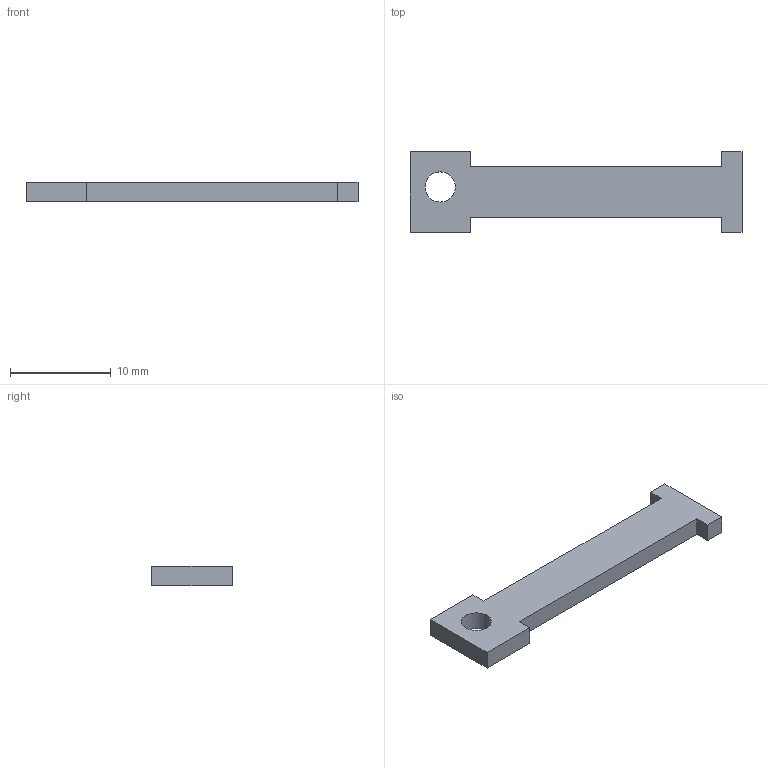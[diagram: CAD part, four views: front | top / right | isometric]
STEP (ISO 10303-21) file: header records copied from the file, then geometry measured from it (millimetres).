
FILE_DESCRIPTION(/* description */ ('STEP AP242 Edition 2','CAx-IF Rec.Pracs.---Representation and Presentation of Product Manufacturing Information (PMI)---4.0---2014-10-13','CAx-IF Rec.Pracs.---3D Tessellated Geometry---0.4---2014-09-14','2;1','CAx-IF Rec.Pracs.---User Defined Attributes---1.5---2016-08-15'),/* implementation_level */ '2;1');
FILE_NAME(/* name */ 'Part Studio 1 - spring_kapak_l',/* time_stamp */ '2026-04-19T16:25:01Z',/* author */ (''),/* organization */ (''),/* preprocessor_version */ 'ST-DEVELOPER v20',/* originating_system */ 'ONSHAPE BY PTC INC, 1.213',/* authorisation */ ' ');
FILE_SCHEMA (('AP242_MANAGED_MODEL_BASED_3D_ENGINEERING_MIM_LF { 1 0 10303 442 3 1 4 }'));
Length unit declared in the file: metre
Products named in the file (1): spring_kapak_l
Bounding box: 33 x 8 x 1.9 mm (x, y, z)
Volume: 345.7 mm3; surface area: 549 mm2
Topology: 1 solids, 1 shells, 15 faces, 39 edges, 26 vertices
Faces by surface type: plane 14, cylinder 1
Full cylindrical faces by diameter (mm): 3 x1
Entity records: 476 total; most frequent: CARTESIAN_POINT 80, ORIENTED_EDGE 76, DIRECTION 72, EDGE_CURVE 38, LINE 36, VECTOR 36, VERTEX_POINT 26, EDGE_LOOP 18
